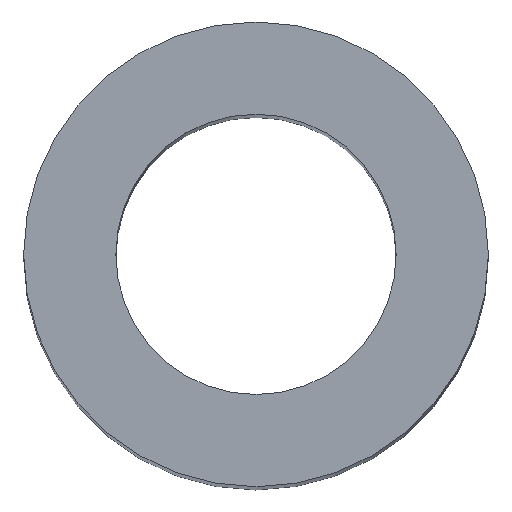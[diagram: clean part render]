
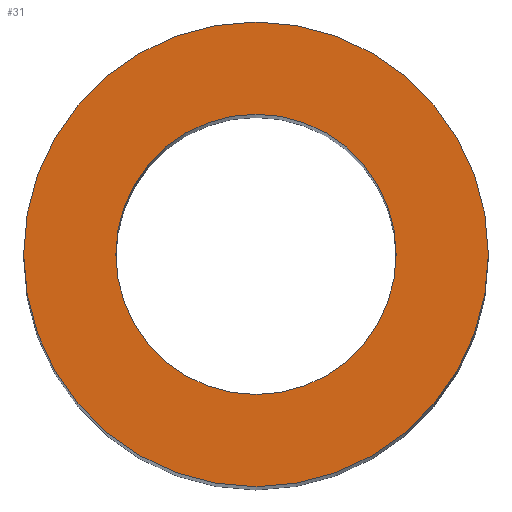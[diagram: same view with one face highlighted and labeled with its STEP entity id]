
A CAD part, top view. The second image highlights one B-rep face of the part: STEP entity #31.
In plain terms, the highlighted planar face has unit normal (0, 0, 1).
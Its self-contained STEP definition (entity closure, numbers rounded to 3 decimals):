
#1 = FACE_BOUND ( 'NONE', #123, .T. ) ;
#2 = CARTESIAN_POINT ( 'NONE',  ( -31.5, 0., 254. ) ) ;
#3 = EDGE_LOOP ( 'NONE', ( #142, #186 ) ) ;
#8 = EDGE_CURVE ( 'NONE', #177, #25, #47, .T. ) ;
#20 = DIRECTION ( 'NONE',  ( 0., 0., 1. ) ) ;
#25 = VERTEX_POINT ( 'NONE', #2 ) ;
#27 = CIRCLE ( 'NONE', #106, 31.5 ) ;
#31 = ADVANCED_FACE ( 'NONE', ( #187, #1 ), #207, .T. ) ;
#38 = AXIS2_PLACEMENT_3D ( 'NONE', #180, #57, #204 ) ;
#47 = CIRCLE ( 'NONE', #86, 31.5 ) ;
#53 = EDGE_CURVE ( 'NONE', #102, #83, #94, .T. ) ;
#57 = DIRECTION ( 'NONE',  ( 0., 0., 1. ) ) ;
#61 = CIRCLE ( 'NONE', #139, 19. ) ;
#65 = ORIENTED_EDGE ( 'NONE', *, *, #100, .F. ) ;
#70 = CARTESIAN_POINT ( 'NONE',  ( 31.5, 0., 254. ) ) ;
#83 = VERTEX_POINT ( 'NONE', #127 ) ;
#86 = AXIS2_PLACEMENT_3D ( 'NONE', #213, #20, #162 ) ;
#94 = CIRCLE ( 'NONE', #38, 19. ) ;
#100 = EDGE_CURVE ( 'NONE', #83, #102, #61, .T. ) ;
#102 = VERTEX_POINT ( 'NONE', #130 ) ;
#104 = EDGE_CURVE ( 'NONE', #25, #177, #27, .T. ) ;
#106 = AXIS2_PLACEMENT_3D ( 'NONE', #141, #176, #147 ) ;
#108 = DIRECTION ( 'NONE',  ( 0., 0., 1. ) ) ;
#109 = CARTESIAN_POINT ( 'NONE',  ( 0., 0., 254. ) ) ;
#123 = EDGE_LOOP ( 'NONE', ( #135, #65 ) ) ;
#127 = CARTESIAN_POINT ( 'NONE',  ( 19., 0., 254. ) ) ;
#130 = CARTESIAN_POINT ( 'NONE',  ( -19., 0., 254. ) ) ;
#135 = ORIENTED_EDGE ( 'NONE', *, *, #53, .F. ) ;
#139 = AXIS2_PLACEMENT_3D ( 'NONE', #109, #108, #159 ) ;
#141 = CARTESIAN_POINT ( 'NONE',  ( 0., 0., 254. ) ) ;
#142 = ORIENTED_EDGE ( 'NONE', *, *, #104, .T. ) ;
#144 = CARTESIAN_POINT ( 'NONE',  ( 0., 0., 254. ) ) ;
#147 = DIRECTION ( 'NONE',  ( 1., 0., 0. ) ) ;
#159 = DIRECTION ( 'NONE',  ( 1., 0., 0. ) ) ;
#162 = DIRECTION ( 'NONE',  ( 1., 0., 0. ) ) ;
#164 = AXIS2_PLACEMENT_3D ( 'NONE', #144, #178, #182 ) ;
#176 = DIRECTION ( 'NONE',  ( 0., 0., 1. ) ) ;
#177 = VERTEX_POINT ( 'NONE', #70 ) ;
#178 = DIRECTION ( 'NONE',  ( 0., 0., 1. ) ) ;
#180 = CARTESIAN_POINT ( 'NONE',  ( 0., 0., 254. ) ) ;
#182 = DIRECTION ( 'NONE',  ( 1., 0., 0. ) ) ;
#186 = ORIENTED_EDGE ( 'NONE', *, *, #8, .T. ) ;
#187 = FACE_OUTER_BOUND ( 'NONE', #3, .T. ) ;
#204 = DIRECTION ( 'NONE',  ( 1., 0., 0. ) ) ;
#207 = PLANE ( 'NONE',  #164 ) ;
#213 = CARTESIAN_POINT ( 'NONE',  ( 0., 0., 254. ) ) ;
